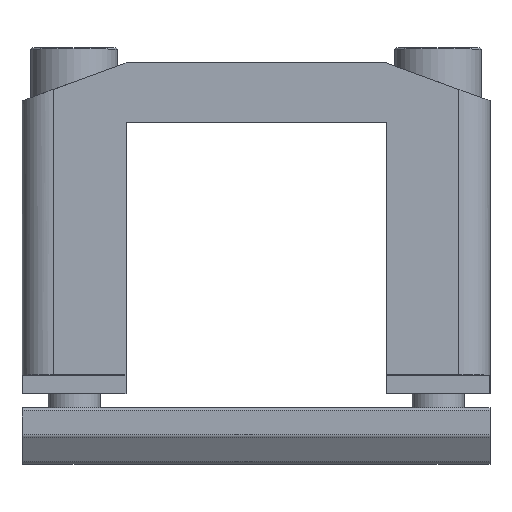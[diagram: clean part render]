
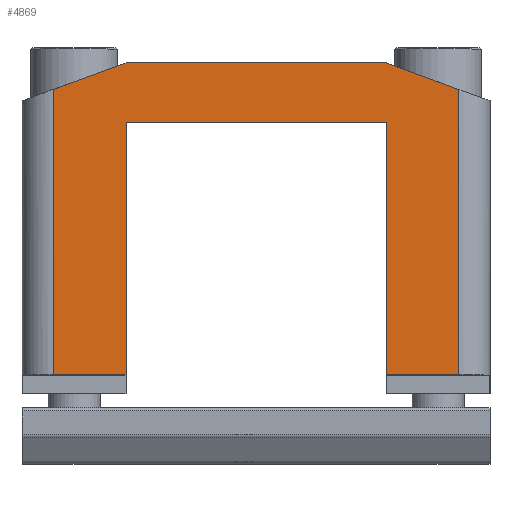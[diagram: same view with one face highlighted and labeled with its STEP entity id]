
A CAD part, top view. The second image highlights one B-rep face of the part: STEP entity #4869.
In plain terms, the highlighted planar face has unit normal (0, 0, 1).
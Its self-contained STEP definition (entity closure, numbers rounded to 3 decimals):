
#99 = LINE ( 'NONE', #4139, #1393 ) ;
#257 = LINE ( 'NONE', #2768, #3512 ) ;
#263 = VECTOR ( 'NONE', #9176, 1000. ) ;
#282 = CARTESIAN_POINT ( 'NONE',  ( 19.5, 0., 6. ) ) ;
#536 = LINE ( 'NONE', #5123, #6970 ) ;
#716 = VERTEX_POINT ( 'NONE', #7409 ) ;
#915 = DIRECTION ( 'NONE',  ( 0., 1., 0. ) ) ;
#966 = ORIENTED_EDGE ( 'NONE', *, *, #9420, .T. ) ;
#1113 = LINE ( 'NONE', #8786, #8681 ) ;
#1202 = CARTESIAN_POINT ( 'NONE',  ( 12.5, 24.3, 6. ) ) ;
#1303 = DIRECTION ( 'NONE',  ( 0.94, -0.342, 0. ) ) ;
#1393 = VECTOR ( 'NONE', #5674, 1000. ) ;
#1535 = VERTEX_POINT ( 'NONE', #6271 ) ;
#1713 = DIRECTION ( 'NONE',  ( -1., 0., 0. ) ) ;
#1719 = EDGE_CURVE ( 'NONE', #3025, #7229, #99, .T. ) ;
#1764 = CARTESIAN_POINT ( 'NONE',  ( -12.5, 30., 6. ) ) ;
#2227 = CARTESIAN_POINT ( 'NONE',  ( 22.5, 0., 6. ) ) ;
#2631 = VECTOR ( 'NONE', #915, 1000. ) ;
#2768 = CARTESIAN_POINT ( 'NONE',  ( 12.5, 30., 6. ) ) ;
#2979 = EDGE_CURVE ( 'NONE', #7753, #6985, #8012, .T. ) ;
#3025 = VERTEX_POINT ( 'NONE', #1764 ) ;
#3105 = VERTEX_POINT ( 'NONE', #5555 ) ;
#3250 = CARTESIAN_POINT ( 'NONE',  ( 12.5, 30., 6. ) ) ;
#3294 = ORIENTED_EDGE ( 'NONE', *, *, #3418, .F. ) ;
#3418 = EDGE_CURVE ( 'NONE', #7135, #3025, #7076, .T. ) ;
#3440 = CARTESIAN_POINT ( 'NONE',  ( 12.5, 24.3, 6. ) ) ;
#3469 = ORIENTED_EDGE ( 'NONE', *, *, #6940, .F. ) ;
#3512 = VECTOR ( 'NONE', #1303, 1000. ) ;
#3609 = DIRECTION ( 'NONE',  ( 1., 0., 0. ) ) ;
#3752 = LINE ( 'NONE', #8527, #263 ) ;
#4050 = EDGE_CURVE ( 'NONE', #7135, #3105, #1113, .T. ) ;
#4139 = CARTESIAN_POINT ( 'NONE',  ( -12.5, 30., 6. ) ) ;
#4203 = ORIENTED_EDGE ( 'NONE', *, *, #6063, .T. ) ;
#4226 = VECTOR ( 'NONE', #8916, 1000. ) ;
#4342 = CARTESIAN_POINT ( 'NONE',  ( -22.5, 26.36, 6. ) ) ;
#4442 = DIRECTION ( 'NONE',  ( -1., 0., 0. ) ) ;
#4550 = ORIENTED_EDGE ( 'NONE', *, *, #7296, .T. ) ;
#4583 = LINE ( 'NONE', #7400, #4226 ) ;
#4869 = ADVANCED_FACE ( 'NONE', ( #4902 ), #9072, .F. ) ;
#4902 = FACE_OUTER_BOUND ( 'NONE', #6292, .T. ) ;
#5095 = CARTESIAN_POINT ( 'NONE',  ( 19.5, 26.36, 6. ) ) ;
#5123 = CARTESIAN_POINT ( 'NONE',  ( -12.5, 24.3, 6. ) ) ;
#5175 = CARTESIAN_POINT ( 'NONE',  ( 19.5, 27.452, 6. ) ) ;
#5555 = CARTESIAN_POINT ( 'NONE',  ( -19.5, 0., 6. ) ) ;
#5610 = ORIENTED_EDGE ( 'NONE', *, *, #6284, .F. ) ;
#5674 = DIRECTION ( 'NONE',  ( 1., 0., 0. ) ) ;
#5782 = ORIENTED_EDGE ( 'NONE', *, *, #1719, .F. ) ;
#5861 = EDGE_CURVE ( 'NONE', #1535, #3105, #4583, .T. ) ;
#6063 = EDGE_CURVE ( 'NONE', #1535, #716, #3752, .T. ) ;
#6093 = LINE ( 'NONE', #2227, #7364 ) ;
#6197 = ORIENTED_EDGE ( 'NONE', *, *, #5861, .F. ) ;
#6222 = CARTESIAN_POINT ( 'NONE',  ( -19.5, 27.452, 6. ) ) ;
#6271 = CARTESIAN_POINT ( 'NONE',  ( -12.5, 0., 6. ) ) ;
#6284 = EDGE_CURVE ( 'NONE', #7229, #6985, #257, .T. ) ;
#6292 = EDGE_LOOP ( 'NONE', ( #3294, #7888, #6197, #4203, #966, #4550, #3469, #9146, #5610, #5782 ) ) ;
#6509 = VERTEX_POINT ( 'NONE', #8329 ) ;
#6771 = VERTEX_POINT ( 'NONE', #1202 ) ;
#6940 = EDGE_CURVE ( 'NONE', #7753, #6509, #6093, .T. ) ;
#6963 = VECTOR ( 'NONE', #8827, 1000. ) ;
#6970 = VECTOR ( 'NONE', #3609, 1000. ) ;
#6971 = AXIS2_PLACEMENT_3D ( 'NONE', #7618, #7711, #1713 ) ;
#6985 = VERTEX_POINT ( 'NONE', #5175 ) ;
#7076 = LINE ( 'NONE', #4342, #6963 ) ;
#7135 = VERTEX_POINT ( 'NONE', #6222 ) ;
#7213 = DIRECTION ( 'NONE',  ( 0., -1., 0. ) ) ;
#7229 = VERTEX_POINT ( 'NONE', #3250 ) ;
#7296 = EDGE_CURVE ( 'NONE', #6771, #6509, #7820, .T. ) ;
#7364 = VECTOR ( 'NONE', #4442, 1000. ) ;
#7400 = CARTESIAN_POINT ( 'NONE',  ( 22.5, 0., 6. ) ) ;
#7409 = CARTESIAN_POINT ( 'NONE',  ( -12.5, 24.3, 6. ) ) ;
#7618 = CARTESIAN_POINT ( 'NONE',  ( 0., 0., 6. ) ) ;
#7708 = VECTOR ( 'NONE', #7213, 1000. ) ;
#7711 = DIRECTION ( 'NONE',  ( 0., 0., -1. ) ) ;
#7753 = VERTEX_POINT ( 'NONE', #282 ) ;
#7820 = LINE ( 'NONE', #3440, #7708 ) ;
#7888 = ORIENTED_EDGE ( 'NONE', *, *, #4050, .T. ) ;
#8012 = LINE ( 'NONE', #5095, #2631 ) ;
#8329 = CARTESIAN_POINT ( 'NONE',  ( 12.5, 0., 6. ) ) ;
#8527 = CARTESIAN_POINT ( 'NONE',  ( -12.5, -1.8, 6. ) ) ;
#8681 = VECTOR ( 'NONE', #9538, 1000. ) ;
#8786 = CARTESIAN_POINT ( 'NONE',  ( -19.5, 0., 6. ) ) ;
#8827 = DIRECTION ( 'NONE',  ( 0.94, 0.342, 0. ) ) ;
#8916 = DIRECTION ( 'NONE',  ( -1., 0., 0. ) ) ;
#9072 = PLANE ( 'NONE',  #6971 ) ;
#9146 = ORIENTED_EDGE ( 'NONE', *, *, #2979, .T. ) ;
#9176 = DIRECTION ( 'NONE',  ( 0., 1., 0. ) ) ;
#9420 = EDGE_CURVE ( 'NONE', #716, #6771, #536, .T. ) ;
#9538 = DIRECTION ( 'NONE',  ( 0., -1., 0. ) ) ;
